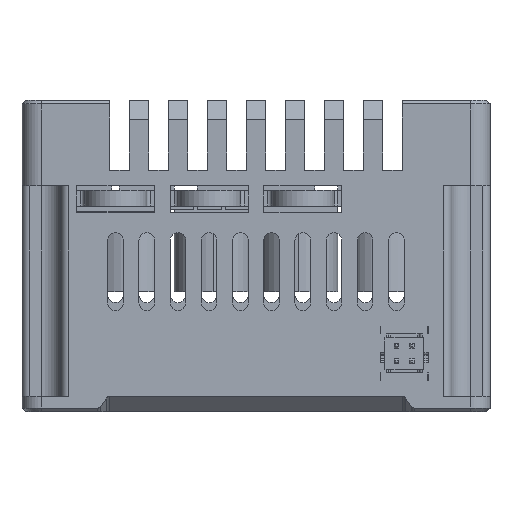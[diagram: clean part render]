
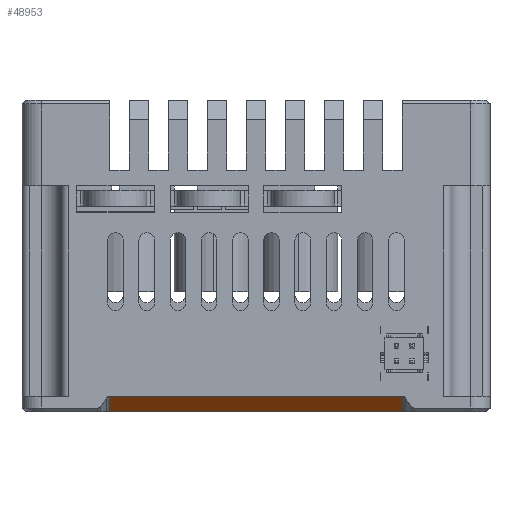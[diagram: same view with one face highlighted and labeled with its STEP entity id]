
A CAD part, left-side view. The second image highlights one B-rep face of the part: STEP entity #48953.
In plain terms, the highlighted planar face has unit normal (-0.707, 0, -0.707).
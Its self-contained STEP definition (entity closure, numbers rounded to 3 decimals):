
#3239=DIRECTION('',(0.,-1.,0.));
#3240=VECTOR('',#3239,37.586);
#3241=CARTESIAN_POINT('',(-30.,18.793,-8.));
#3242=LINE('',#3241,#3240);
#4002=DIRECTION('',(0.,1.,0.));
#4003=VECTOR('',#4002,37.586);
#4004=CARTESIAN_POINT('',(-28.,-18.793,-10.));
#4005=LINE('',#4004,#4003);
#4826=DIRECTION('',(0.707,0.,-0.707));
#4827=VECTOR('',#4826,2.828);
#4828=CARTESIAN_POINT('',(-30.,-18.793,-8.));
#4829=LINE('',#4828,#4827);
#4830=DIRECTION('',(-0.707,0.,0.707));
#4831=VECTOR('',#4830,2.828);
#4832=CARTESIAN_POINT('',(-28.,18.793,-10.));
#4833=LINE('',#4832,#4831);
#43394=CARTESIAN_POINT('',(-30.,-18.793,-8.));
#43395=CARTESIAN_POINT('',(-28.,-18.793,-10.));
#43396=VERTEX_POINT('',#43394);
#43397=VERTEX_POINT('',#43395);
#43402=CARTESIAN_POINT('',(-28.,18.793,-10.));
#43403=CARTESIAN_POINT('',(-30.,18.793,-8.));
#43404=VERTEX_POINT('',#43402);
#43405=VERTEX_POINT('',#43403);
#48941=CARTESIAN_POINT('',(-29.5,0.,-8.5));
#48942=DIRECTION('',(-0.707,0.,-0.707));
#48943=DIRECTION('',(0.707,0.,-0.707));
#48944=AXIS2_PLACEMENT_3D('',#48941,#48942,#48943);
#48945=PLANE('',#48944);
#48947=ORIENTED_EDGE('',*,*,#48946,.T.);
#48948=ORIENTED_EDGE('',*,*,#47559,.T.);
#48949=ORIENTED_EDGE('',*,*,#48933,.T.);
#48950=ORIENTED_EDGE('',*,*,#47030,.T.);
#48951=EDGE_LOOP('',(#48947,#48948,#48949,#48950));
#48952=FACE_OUTER_BOUND('',#48951,.F.);
#47030=EDGE_CURVE('',#43405,#43396,#3242,.T.);
#47559=EDGE_CURVE('',#43397,#43404,#4005,.T.);
#48933=EDGE_CURVE('',#43404,#43405,#4833,.T.);
#48946=EDGE_CURVE('',#43396,#43397,#4829,.T.);
#48953=ADVANCED_FACE('',(#48952),#48945,.T.);
